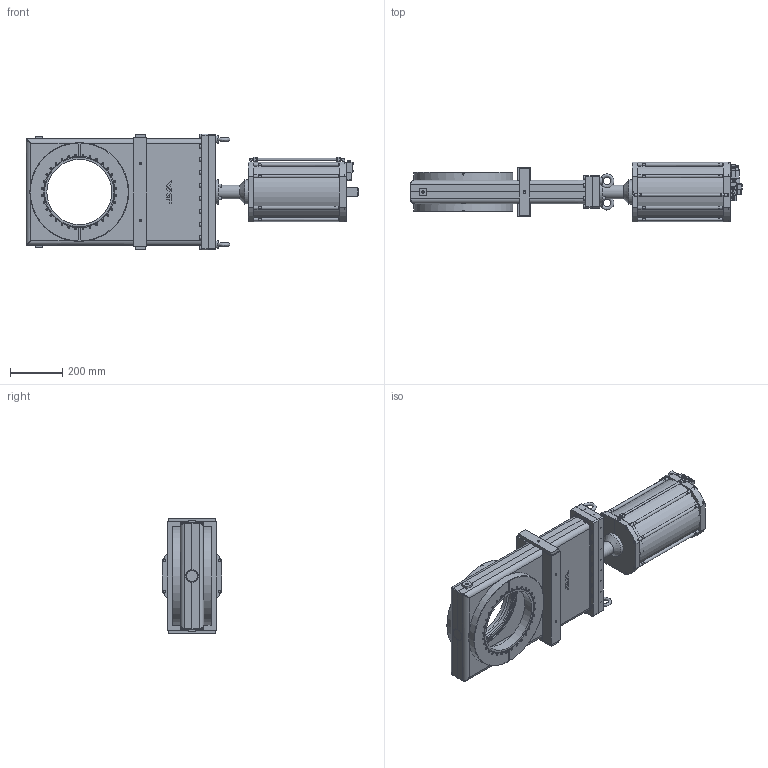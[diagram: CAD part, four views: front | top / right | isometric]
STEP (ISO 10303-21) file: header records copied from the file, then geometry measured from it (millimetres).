
FILE_DESCRIPTION(/* description */ (''),/* implementation_level */ '2;1');
FILE_NAME(/* name */ '1665328411_203.stp',/* time_stamp */ '2017-11-22T17:47:28+01:00',/* author */ (''),/* organization */ (''),/* preprocessor_version */ 'ST-DEVELOPER v16',/* originating_system */ 'SIEMENS PLM Software NX 11.0',/* authorisation */ '');
FILE_SCHEMA (('AP203_CONFIGURATION_CONTROLLED_3D_DESIGN_OF_MECHANICAL_PARTS_AND_ASSEMBLIES_MIM_LF { 1 0 10303 403 2 1 2}'));
Length unit declared in the file: millimetre
Products named in the file (39): 340783; 204411; 233566.1; 52502-01.1; 204403_1.10; 204414.6; 204485.6; 204412_1.4; 467863; 467864; n-7705-001; n-7501-502_1; n-7501-502_2; n-6024-562; 72236-01; N-8504-002; N-6203-015; 69672-01; N-6162-404; 228777; 72238-01; N-6024-531; N-6016-503; N-7612-036.1; N-5019-815.1; N-6005-501.1; N-6033-007.1; 247111.3; 85362-01.3; 204522.4; 235291.2; 204528.3; 204526.2; 230428.8; N-5019-819.1; 204425.17_NX-ARRAGMNTArrangement 1; 204448.15_MODELNX-ARRAGMNTArangement 1; n-8501-300_MODELNX-ARRAGMNTArrangement 1; 209630.11
Assembly tree (90 placements, depth 4):
  209630.11
    N-5019-819.1  x20
    230428.8
    204526.2  x8
    204528.3
    235291.2
    204522.4
    85362-01.3
    247111.3
    N-6033-007.1  x2
    N-6005-501.1  x8
    N-5019-815.1  x4
    N-7612-036.1  x2
    N-6016-503  x2
    N-6024-531  x4
    72238-01
    228777  x4
    N-6162-404  x2
    69672-01
    N-6203-015
    N-8504-002
    72236-01
    n-6024-562  x2
    n-7501-502_2
    n-7501-502_1
    n-7705-001  x2
    n-8501-300_MODELNX-ARRAGMNTArrangement 1
      467864
      467863
    204448.15_MODELNX-ARRAGMNTArangement 1
      204425.17_NX-ARRAGMNTArrangement 1
        204414.6  x2
        204403_1.10  x2
        52502-01.1  x2
        233566.1  x2
        204411
        340783
      204412_1.4
      204485.6
Bounding box: 1276.6 x 230 x 446 mm (x, y, z)
Volume: 16233435.2 mm3; surface area: 3152898.4 mm2
Topology: 163 solids, 163 shells, 2838 faces, 6528 edges, 4242 vertices
Faces by surface type: plane 1591, cylinder 765, cone 319, extrusion 69, torus 42, bspline 34, sphere 18
Full cylindrical faces by diameter (mm): 1.4 x2, 1.66 x7, 1.95 x4, 2.25 x4, 2.7 x5, 3 x5, 3.26 x2, 3.3 x4, 3.4 x4, 4 x5, 4.2 x2, 4.3 x1, 4.4 x4, 4.8 x2, 4.9 x1, 5 x6, 5.006 x2, 5.25 x5, 5.5 x3, 5.6 x2, 6 x15, 6.5 x2, 6.647 x28, 6.66 x36, 6.7 x36, 6.8 x76, 7.7 x8, 7.78 x1, 8 x111, 8.4 x12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
Entity records: 65464 total; most frequent: CARTESIAN_POINT 16261, DIRECTION 7993, ORIENTED_EDGE 7284, EDGE_CURVE 3642, AXIS2_PLACEMENT_3D 3114, VERTEX_POINT 2780, EDGE_LOOP 2775, FACE_BOUND 1837
